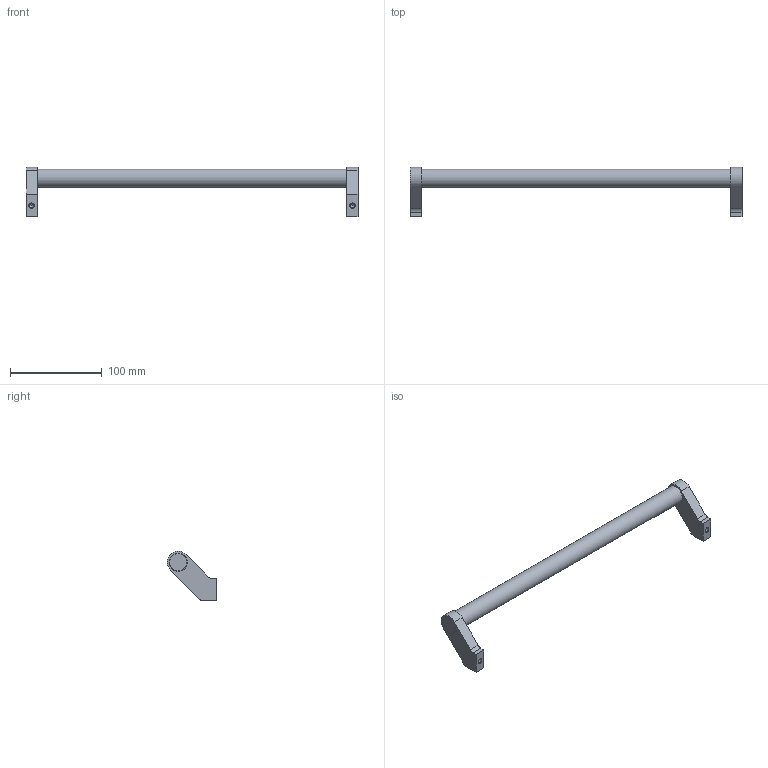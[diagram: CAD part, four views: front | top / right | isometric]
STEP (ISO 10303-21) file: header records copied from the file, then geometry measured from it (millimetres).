
FILE_DESCRIPTION( ( 'STEP AP203' ), '1' );
FILE_NAME( 'C:/Temp/Ganter_Step_05_03_2020/data/1_2/gn333/Tubular handle GN 333-20-350-A-EL.stp', '2020-03-05T10:16:10', ( 'License CC BY-ND 4.0' ), ( 'CADENAS' ), ' ', 'PARTsolutions', ' ' );
FILE_SCHEMA( ( 'CONFIG_CONTROL_DESIGN' ) );
Length unit declared in the file: millimetre
Products named in the file (1): _Tubular handle GN 333-20-350-A-EL
Bounding box: 362 x 53.95 x 53.95 mm (x, y, z)
Volume: 142433.8 mm3; surface area: 31342.7 mm2
Topology: 1 solids, 1 shells, 33 faces, 77 edges, 50 vertices
Faces by surface type: plane 16, cylinder 11, cone 4, torus 2
Full cylindrical faces by diameter (mm): 4.917 x2, 20 x3
Entity records: 906 total; most frequent: DIRECTION 156, CARTESIAN_POINT 144, ORIENTED_EDGE 124, EDGE_CURVE 62, AXIS2_PLACEMENT_3D 60, EDGE_LOOP 48, VERTEX_POINT 48, FACE_OUTER_BOUND 40
